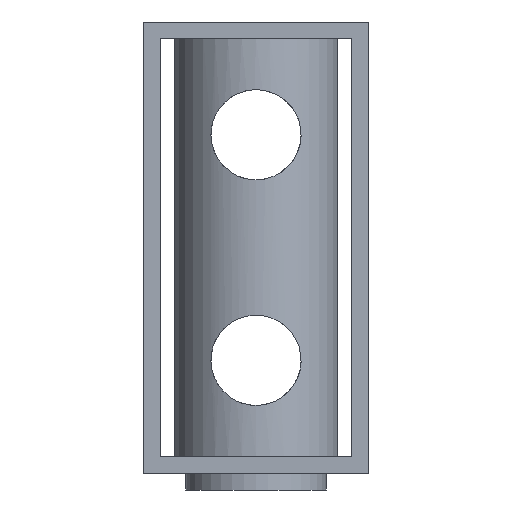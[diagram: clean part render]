
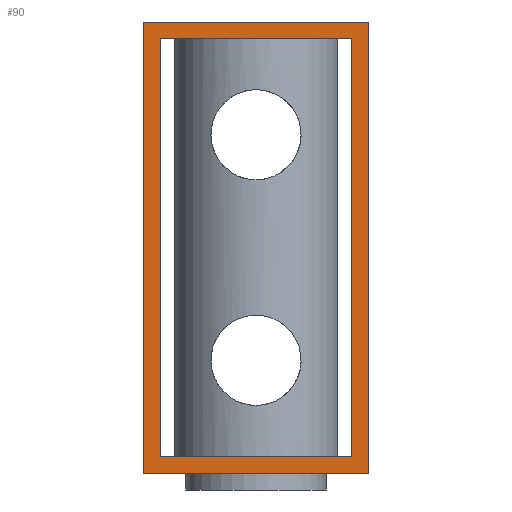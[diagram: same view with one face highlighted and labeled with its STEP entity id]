
A CAD part, front view. The second image highlights one B-rep face of the part: STEP entity #90.
In plain terms, the highlighted planar face has unit normal (0, -1, 0).
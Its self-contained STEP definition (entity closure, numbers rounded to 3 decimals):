
#90 = ADVANCED_FACE( '', ( #207, #208 ), #209, .F. );
#207 = FACE_BOUND( '', #322, .T. );
#208 = FACE_OUTER_BOUND( '', #323, .T. );
#209 = PLANE( '', #324 );
#322 = EDGE_LOOP( '', ( #497, #498, #499, #500 ) );
#323 = EDGE_LOOP( '', ( #501, #502, #503, #504 ) );
#324 = AXIS2_PLACEMENT_3D( '', #505, #506, #507 );
#497 = ORIENTED_EDGE( '', *, *, #570, .T. );
#498 = ORIENTED_EDGE( '', *, *, #565, .T. );
#499 = ORIENTED_EDGE( '', *, *, #588, .T. );
#500 = ORIENTED_EDGE( '', *, *, #596, .T. );
#501 = ORIENTED_EDGE( '', *, *, #559, .F. );
#502 = ORIENTED_EDGE( '', *, *, #551, .F. );
#503 = ORIENTED_EDGE( '', *, *, #597, .F. );
#504 = ORIENTED_EDGE( '', *, *, #582, .F. );
#505 = CARTESIAN_POINT( '', ( 0., -20., 0. ) );
#506 = DIRECTION( '', ( 0., 1., 0. ) );
#507 = DIRECTION( '', ( 0., 0., 1. ) );
#551 = EDGE_CURVE( '', #639, #640, #641, .T. );
#559 = EDGE_CURVE( '', #640, #653, #654, .T. );
#565 = EDGE_CURVE( '', #663, #664, #665, .T. );
#570 = EDGE_CURVE( '', #672, #663, #673, .T. );
#582 = EDGE_CURVE( '', #653, #690, #691, .T. );
#588 = EDGE_CURVE( '', #664, #698, #699, .T. );
#596 = EDGE_CURVE( '', #698, #672, #708, .T. );
#597 = EDGE_CURVE( '', #690, #639, #709, .T. );
#639 = VERTEX_POINT( '', #1027 );
#640 = VERTEX_POINT( '', #1028 );
#641 = LINE( '', #1029, #1030 );
#653 = VERTEX_POINT( '', #1183 );
#654 = LINE( '', #1184, #1185 );
#663 = VERTEX_POINT( '', #1196 );
#664 = VERTEX_POINT( '', #1197 );
#665 = LINE( '', #1198, #1199 );
#672 = VERTEX_POINT( '', #1209 );
#673 = LINE( '', #1210, #1211 );
#690 = VERTEX_POINT( '', #1368 );
#691 = LINE( '', #1369, #1370 );
#698 = VERTEX_POINT( '', #1379 );
#699 = LINE( '', #1380, #1381 );
#708 = LINE( '', #1394, #1395 );
#709 = LINE( '', #1396, #1397 );
#1027 = CARTESIAN_POINT( '', ( 10., -20., -10. ) );
#1028 = CARTESIAN_POINT( '', ( -10., -20., -10. ) );
#1029 = CARTESIAN_POINT( '', ( 10., -20., -10. ) );
#1030 = VECTOR( '', #1436, 1000. );
#1183 = CARTESIAN_POINT( '', ( -10., -20., 30. ) );
#1184 = CARTESIAN_POINT( '', ( -10., -20., -10. ) );
#1185 = VECTOR( '', #1440, 1000. );
#1196 = CARTESIAN_POINT( '', ( -8.5, -20., 28.5 ) );
#1197 = CARTESIAN_POINT( '', ( 8.5, -20., 28.5 ) );
#1198 = CARTESIAN_POINT( '', ( -8.5, -20., 28.5 ) );
#1199 = VECTOR( '', #1449, 1000. );
#1209 = CARTESIAN_POINT( '', ( -8.5, -20., -8.5 ) );
#1210 = CARTESIAN_POINT( '', ( -8.5, -20., -8.5 ) );
#1211 = VECTOR( '', #1453, 1000. );
#1368 = CARTESIAN_POINT( '', ( 10., -20., 30. ) );
#1369 = CARTESIAN_POINT( '', ( -10., -20., 30. ) );
#1370 = VECTOR( '', #1462, 1000. );
#1379 = CARTESIAN_POINT( '', ( 8.5, -20., -8.5 ) );
#1380 = CARTESIAN_POINT( '', ( 8.5, -20., 28.5 ) );
#1381 = VECTOR( '', #1465, 1000. );
#1394 = CARTESIAN_POINT( '', ( 8.5, -20., -8.5 ) );
#1395 = VECTOR( '', #1470, 1000. );
#1396 = CARTESIAN_POINT( '', ( 10., -20., 30. ) );
#1397 = VECTOR( '', #1471, 1000. );
#1436 = DIRECTION( '', ( -1., 0., 0. ) );
#1440 = DIRECTION( '', ( 0., 0., 1. ) );
#1449 = DIRECTION( '', ( 1., 0., 0. ) );
#1453 = DIRECTION( '', ( 0., 0., 1. ) );
#1462 = DIRECTION( '', ( 1., 0., 0. ) );
#1465 = DIRECTION( '', ( 0., 0., -1. ) );
#1470 = DIRECTION( '', ( -1., 0., 0. ) );
#1471 = DIRECTION( '', ( 0., 0., -1. ) );
